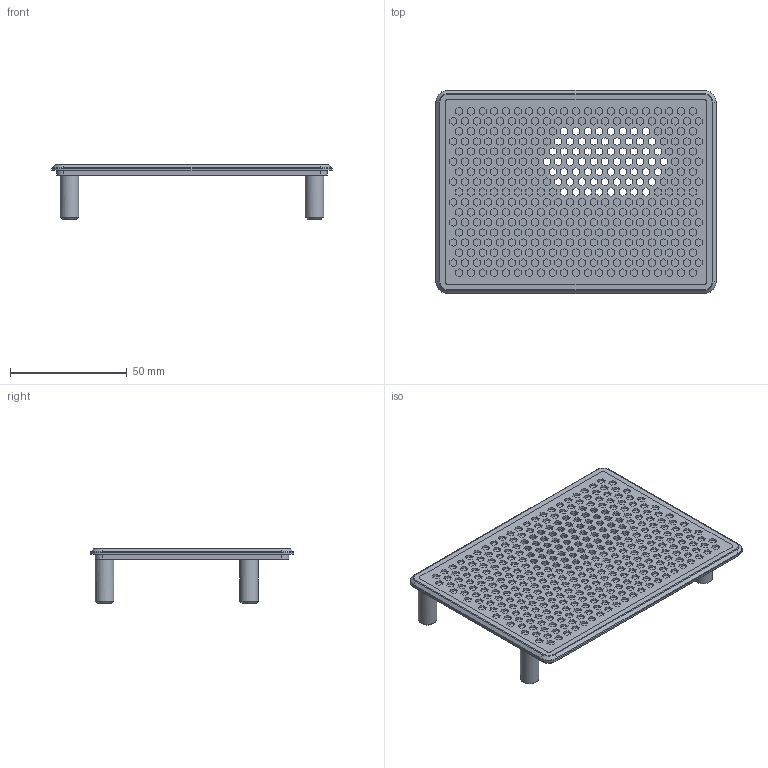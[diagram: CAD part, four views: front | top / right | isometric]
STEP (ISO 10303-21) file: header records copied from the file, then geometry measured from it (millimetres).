
FILE_DESCRIPTION(/* description */ ('STEP AP214'),/* implementation_level */ '2;1');
FILE_NAME(/* name */ 'CASE_OT.stp',/* time_stamp */ '2026-03-11T19:57:16+01:00',/* author */ ('Mischl'),/* organization */ (''),/* preprocessor_version */ 'ST-DEVELOPER v19.2',/* originating_system */ 'Autodesk Inventor 2024',/* authorisation */ '');
FILE_SCHEMA (('AUTOMOTIVE_DESIGN { 1 0 10303 214 3 1 1 }'));
Products named in the file (3): CASE; Gehäuse_OT^CASE; Gitter_OT^CASE
Assembly tree (2 placements, depth 2):
  CASE
    Gehäuse_OT^CASE
    Gitter_OT^CASE
Bounding box: 120 x 87 x 23.5 mm (x, y, z)
Volume: 27436.5 mm3; surface area: 41885.2 mm2
Topology: 2 solids, 2 shells, 2699 faces, 8016 edges, 5326 vertices
Faces by surface type: plane 2621, cylinder 48, torus 12, bspline 10, cone 8
Full cylindrical faces by diameter (mm): 2.6 x4, 8 x4
Entity records: 90739 total; most frequent: CARTESIAN_POINT 16455, ORIENTED_EDGE 16028, DIRECTION 13536, EDGE_CURVE 8014, LINE 7874, VECTOR 7874, VERTEX_POINT 5326, EDGE_LOOP 3566
